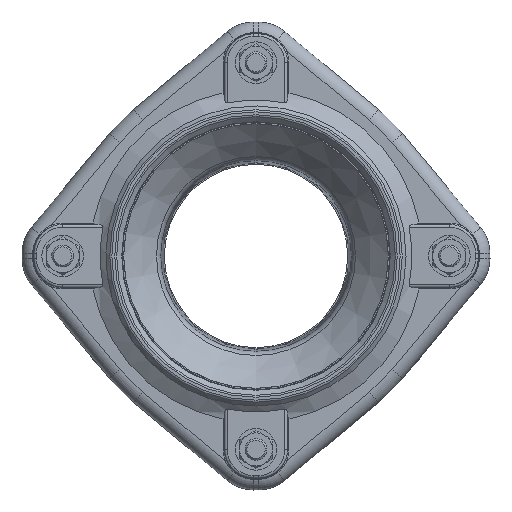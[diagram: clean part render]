
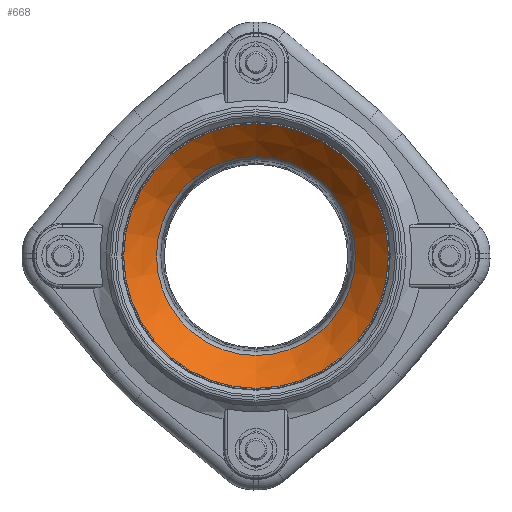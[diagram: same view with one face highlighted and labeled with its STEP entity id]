
A CAD part, left-side view. The second image highlights one B-rep face of the part: STEP entity #668.
In plain terms, the highlighted conical face has half-angle 45 degrees and reference radius 10.056 mm.
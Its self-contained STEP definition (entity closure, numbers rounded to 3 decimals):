
#634=CARTESIAN_POINT('',(-86.422,0.,-71.998));
#635=VERTEX_POINT('',#634);
#636=CARTESIAN_POINT('',(-86.422,0.0,0.0));
#637=DIRECTION('',(-1.0,0.0,0.0));
#638=DIRECTION('',(0.0,-1.0,0.0));
#639=AXIS2_PLACEMENT_3D('',#636,#637,#638);
#640=CIRCLE('',#639,71.998);
#641=EDGE_CURVE('',#635,#635,#640,.T.);
#649=CARTESIAN_POINT('',(-24.48,0.,0.0));
#650=DIRECTION('',(-1.0,0.,0.));
#651=DIRECTION('',(0.0,0.0,-1.0));
#652=AXIS2_PLACEMENT_3D('',#649,#650,#651);
#653=CONICAL_SURFACE('',#652,10.056,45.);
#654=ORIENTED_EDGE('',*,*,#641,.F.);
#655=EDGE_LOOP('',(#654));
#656=FACE_OUTER_BOUND('',#655,.T.);
#657=CARTESIAN_POINT('',(-110.198,0.,-95.774));
#658=VERTEX_POINT('',#657);
#659=CARTESIAN_POINT('',(-110.198,0.0,0.0));
#660=DIRECTION('',(-1.0,0.0,0.0));
#661=DIRECTION('',(0.0,-1.0,0.0));
#662=AXIS2_PLACEMENT_3D('',#659,#660,#661);
#663=CIRCLE('',#662,95.774);
#664=EDGE_CURVE('',#658,#658,#663,.T.);
#665=ORIENTED_EDGE('',*,*,#664,.T.);
#666=EDGE_LOOP('',(#665));
#667=FACE_BOUND('',#666,.T.);
#668=ADVANCED_FACE('',(#656,#667),#653,.F.);
